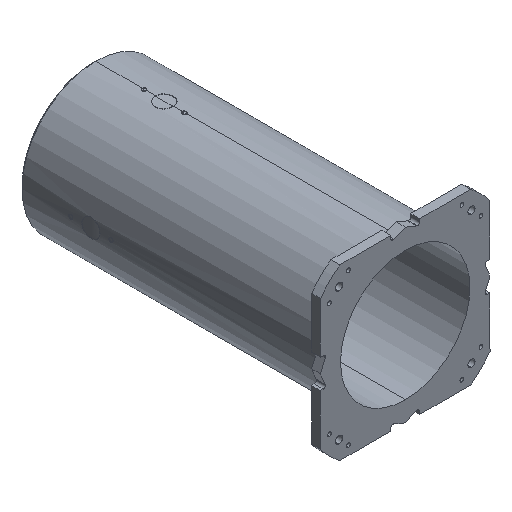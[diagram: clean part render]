
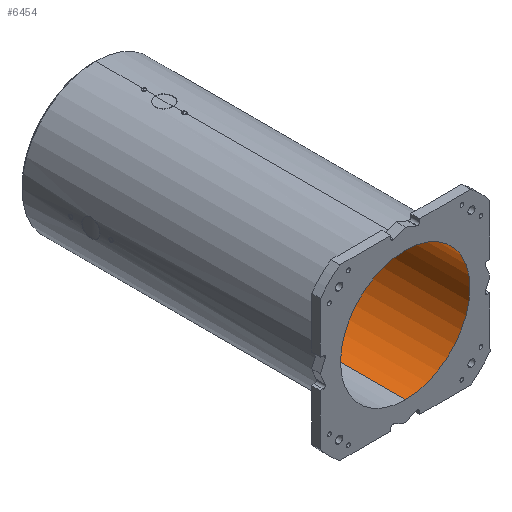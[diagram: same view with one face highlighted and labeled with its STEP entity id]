
A CAD part, isometric view. The second image highlights one B-rep face of the part: STEP entity #6454.
In plain terms, the highlighted cylindrical face has radius 145 mm (diameter 290 mm), a partial arc.
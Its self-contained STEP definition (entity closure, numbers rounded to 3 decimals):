
#46 = EDGE_CURVE ( 'NONE', #66, #588, #7815, .T. ) ;
#66 = VERTEX_POINT ( 'NONE', #8194 ) ;
#125 = FACE_OUTER_BOUND ( 'NONE', #970, .T. ) ;
#588 = VERTEX_POINT ( 'NONE', #12660 ) ;
#909 = DIRECTION ( 'NONE',  ( 0., 1., 0. ) ) ;
#970 = EDGE_LOOP ( 'NONE', ( #1259, #5785, #6438, #1236 ) ) ;
#1236 = ORIENTED_EDGE ( 'NONE', *, *, #46, .T. ) ;
#1259 = ORIENTED_EDGE ( 'NONE', *, *, #12306, .F. ) ;
#1772 = CARTESIAN_POINT ( 'NONE',  ( 0., 0., -145. ) ) ;
#2067 = EDGE_CURVE ( 'NONE', #11250, #4729, #5844, .T. ) ;
#3402 = CARTESIAN_POINT ( 'NONE',  ( 0., 682., 0. ) ) ;
#4068 = LINE ( 'NONE', #5912, #7949 ) ;
#4156 = AXIS2_PLACEMENT_3D ( 'NONE', #3402, #8132, #9087 ) ;
#4729 = VERTEX_POINT ( 'NONE', #1772 ) ;
#4926 = LINE ( 'NONE', #11904, #12133 ) ;
#5785 = ORIENTED_EDGE ( 'NONE', *, *, #2067, .F. ) ;
#5844 = CIRCLE ( 'NONE', #6060, 145. ) ;
#5912 = CARTESIAN_POINT ( 'NONE',  ( 0., 0., 145. ) ) ;
#5963 = EDGE_CURVE ( 'NONE', #11250, #66, #4068, .T. ) ;
#6023 = DIRECTION ( 'NONE',  ( 0., 1., 0. ) ) ;
#6060 = AXIS2_PLACEMENT_3D ( 'NONE', #10555, #909, #10611 ) ;
#6438 = ORIENTED_EDGE ( 'NONE', *, *, #5963, .T. ) ;
#6454 = ADVANCED_FACE ( 'NONE', ( #125 ), #6974, .F. ) ;
#6570 = CARTESIAN_POINT ( 'NONE',  ( 0., 0., 145. ) ) ;
#6974 = CYLINDRICAL_SURFACE ( 'NONE', #11844, 145. ) ;
#7043 = CARTESIAN_POINT ( 'NONE',  ( 0., 0., 0. ) ) ;
#7815 = CIRCLE ( 'NONE', #4156, 145. ) ;
#7949 = VECTOR ( 'NONE', #9804, 1000. ) ;
#8120 = DIRECTION ( 'NONE',  ( 0., 0., 1. ) ) ;
#8132 = DIRECTION ( 'NONE',  ( 0., 1., 0. ) ) ;
#8194 = CARTESIAN_POINT ( 'NONE',  ( 0., 682., 145. ) ) ;
#9087 = DIRECTION ( 'NONE',  ( 0., 0., 1. ) ) ;
#9804 = DIRECTION ( 'NONE',  ( 0., 1., 0. ) ) ;
#10555 = CARTESIAN_POINT ( 'NONE',  ( 0., 0., 0. ) ) ;
#10611 = DIRECTION ( 'NONE',  ( 0., 0., 1. ) ) ;
#10923 = DIRECTION ( 'NONE',  ( 0., 1., 0. ) ) ;
#11250 = VERTEX_POINT ( 'NONE', #6570 ) ;
#11844 = AXIS2_PLACEMENT_3D ( 'NONE', #7043, #10923, #8120 ) ;
#11904 = CARTESIAN_POINT ( 'NONE',  ( 0., 0., -145. ) ) ;
#12133 = VECTOR ( 'NONE', #6023, 1000. ) ;
#12306 = EDGE_CURVE ( 'NONE', #4729, #588, #4926, .T. ) ;
#12660 = CARTESIAN_POINT ( 'NONE',  ( 0., 682., -145. ) ) ;
